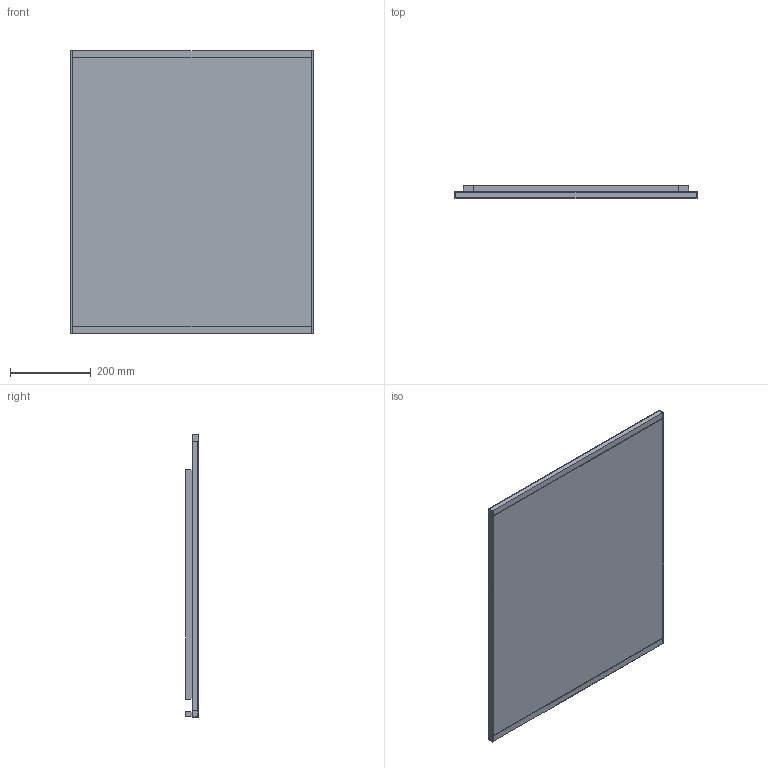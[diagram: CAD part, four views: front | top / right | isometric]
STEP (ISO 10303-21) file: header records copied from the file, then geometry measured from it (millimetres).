
FILE_DESCRIPTION(/* description */ (''),/* implementation_level */ '2;1');
FILE_NAME(/* name */ 'C:\Planerdaten\Export PLA\502.781.00.1\stp\502781.stp',/* time_stamp */ '2022-12-02T15:03:25+01:00',/* author */ ('JANAN'),/* organization */ (''),/* preprocessor_version */ 'ST-DEVELOPER v18.1',/* originating_system */ 'Autodesk Inventor 2021',/* authorisation */ '');
FILE_SCHEMA (('AUTOMOTIVE_DESIGN { 1 0 10303 214 3 1 1 }'));
Length unit declared in the file: millimetre
Products named in the file (1): tmp7307.tmp
Bounding box: 600 x 32 x 700 mm (x, y, z)
Volume: 10953135.5 mm3; surface area: 1874481 mm2
Topology: 4 solids, 4 shells, 63 faces, 154 edges, 104 vertices
Faces by surface type: plane 59, cylinder 4
Full cylindrical faces by diameter (mm): 8 x4
Entity records: 1959 total; most frequent: CARTESIAN_POINT 322, ORIENTED_EDGE 308, DIRECTION 298, EDGE_CURVE 154, LINE 138, VECTOR 138, VERTEX_POINT 104, AXIS2_PLACEMENT_3D 80
